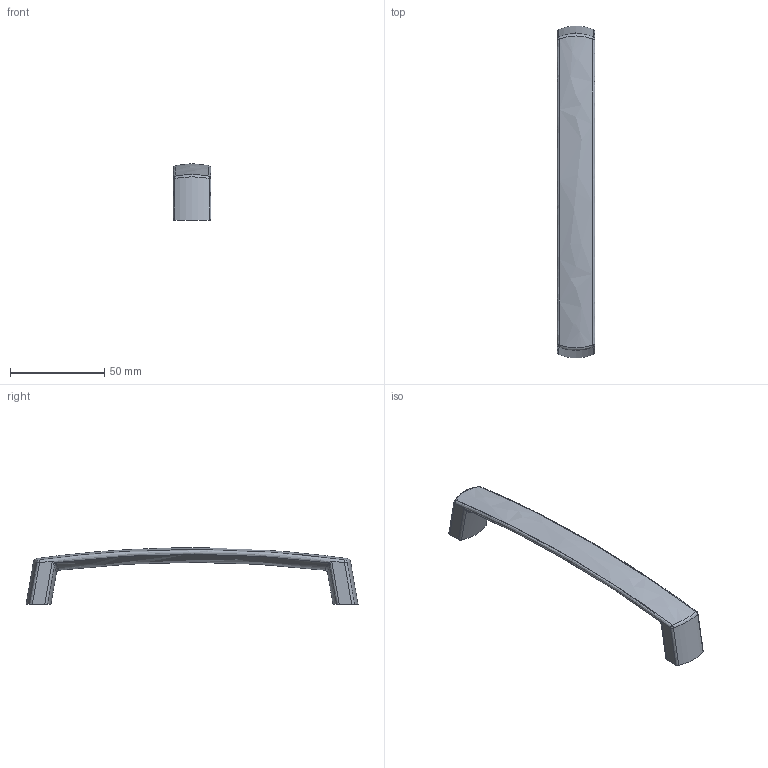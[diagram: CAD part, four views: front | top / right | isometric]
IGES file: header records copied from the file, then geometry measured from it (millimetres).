
Start section: C
Global section: file name: 8059-176.igs; native system: By Siemens PLM Incorporated; preprocessor: XPlus GENERIC/IGES 16.0.42; author: Author; organization: Title; date: 20210331.081758; units: millimetre
Bounding box: 20 x 176 x 30 mm (x, y, z)
Surface area: 10766 mm2 (no closed solid volume)
Topology: 0 solids, 0 shells, 45 faces, 210 edges, 206 vertices
Faces by surface type: bspline 45
